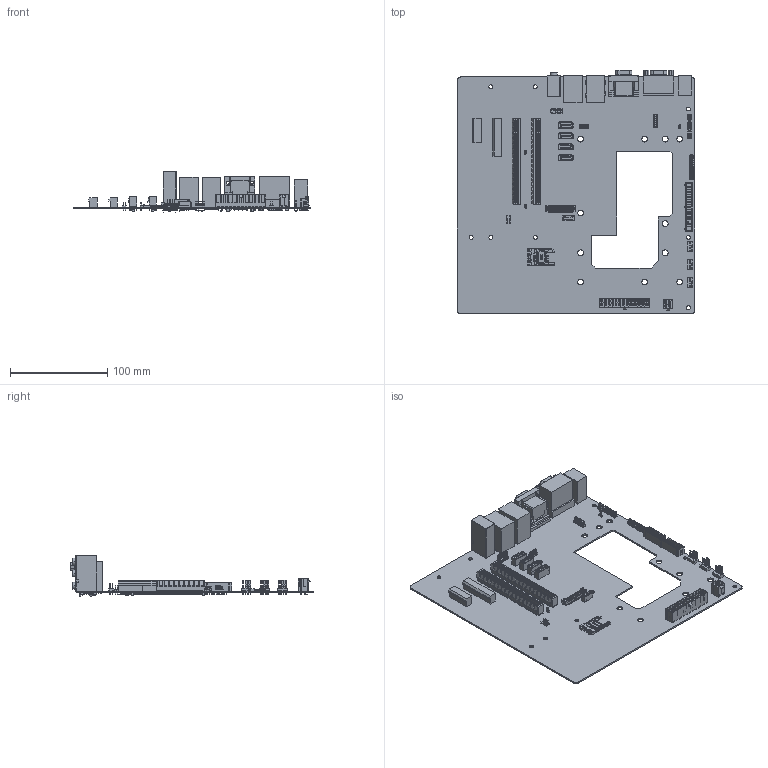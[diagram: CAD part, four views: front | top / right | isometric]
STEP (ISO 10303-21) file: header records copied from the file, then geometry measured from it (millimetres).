
FILE_DESCRIPTION((''),'2;1');
FILE_NAME('EEV-EX14-A1_ASM','2015-09-30T',('cherry_chen'),(''),'CREO PARAMETRIC BY PTC INC, 2015080','CREO PARAMETRIC BY PTC INC, 2015080','');
FILE_SCHEMA(('CONFIG_CONTROL_DESIGN'));
Products named in the file (28): EEV-EX14-A1-PLT; 1653003201; 1653004206R; 1653005201; 1653005204; 1653007201; 1653013201; E1652513303R; E1653002101R_4; E1653107124R; E1653302120R; E1654282201R; E1654640002R; E1655004002R; E1655305021R; E1655404221R; E1651X00600H-SIM-CARD-SMD; 1654218201; 1654232200; E1654415301R; 12GS1000029F04; 1654612303; 1654419302; 1653217203; 1655424001; E16G4322300R; E1654420301; EEV-EX14-A1_ASM
Assembly tree (37 placements, depth 2):
  EEV-EX14-A1_ASM
    EEV-EX14-A1-PLT
    1653003201  x2
    1653004206R
    1653005201  x2
    1653005204
    1653007201
    1653013201
    E1652513303R
    E1653002101R_4  x2
    E1653107124R  x4
    E1653302120R
    E1654282201R  x2
    E1654640002R
    E1655004002R  x3
    E1655305021R
    E1655404221R
    E1651X00600H-SIM-CARD-SMD
    1654218201
    1654232200
    E1654415301R
    12GS1000029F04
    1654612303
    1654419302
    1653217203
    1655424001
    E16G4322300R  x2
    E1654420301
Bounding box: 243.84 x 250.91 x 42.4 mm (x, y, z)
Volume: 179214.6 mm3; surface area: 177560.3 mm2
Topology: 75 solids, 87 shells, 10996 faces, 27815 edges, 18199 vertices
Faces by surface type: plane 10195, cylinder 638, cone 60, extrusion 55, bspline 26, torus 18, sphere 4
Entity records: 243122 total; most frequent: CARTESIAN_POINT 47389, ORIENTED_EDGE 40374, DIRECTION 37537, EDGE_CURVE 20612, VECTOR 19029, LINE 18974, VERTEX_POINT 13472, AXIS2_PLACEMENT_3D 9254
